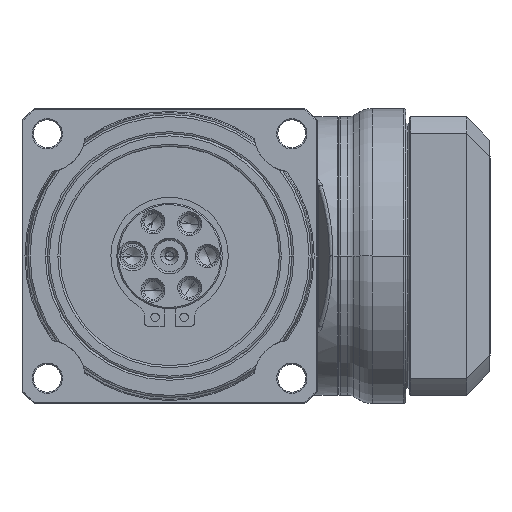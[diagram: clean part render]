
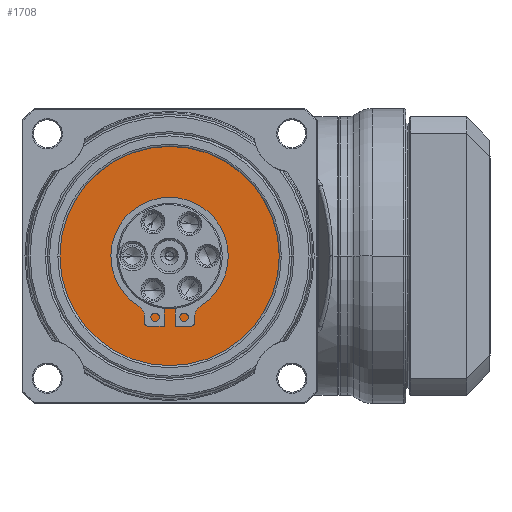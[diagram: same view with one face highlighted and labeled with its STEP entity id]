
A CAD part, left-side view. The second image highlights one B-rep face of the part: STEP entity #1708.
In plain terms, the highlighted planar face has unit normal (-1, 0, 0).
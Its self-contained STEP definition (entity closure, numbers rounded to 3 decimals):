
#751=CARTESIAN_POINT('',(-32.,0.,0.));
#752=DIRECTION('',(1.,0.,0.));
#753=DIRECTION('',(0.,1.,0.));
#754=AXIS2_PLACEMENT_3D('',#751,#752,#753);
#760=CARTESIAN_POINT('',(-32.,0.,0.));
#761=DIRECTION('',(-1.,0.,0.));
#762=DIRECTION('',(0.,1.,0.));
#763=AXIS2_PLACEMENT_3D('',#760,#761,#762);
#779=CARTESIAN_POINT('',(-32.,0.,0.));
#780=DIRECTION('',(-1.,0.,0.));
#781=DIRECTION('',(0.,1.,0.));
#782=AXIS2_PLACEMENT_3D('',#779,#780,#781);
#784=CARTESIAN_POINT('',(-32.,0.,0.));
#785=DIRECTION('',(1.,0.,0.));
#786=DIRECTION('',(0.,1.,0.));
#787=AXIS2_PLACEMENT_3D('',#784,#785,#786);
#1172=CARTESIAN_POINT('',(-32.,26.,0.));
#1174=VERTEX_POINT('',#1172);
#1176=CARTESIAN_POINT('',(-32.,-26.,0.));
#1178=VERTEX_POINT('',#1176);
#1179=CARTESIAN_POINT('',(-32.,12.5,0.));
#1180=CARTESIAN_POINT('',(-32.,-12.5,0.));
#1181=VERTEX_POINT('',#1179);
#1182=VERTEX_POINT('',#1180);
#1693=CARTESIAN_POINT('',(-32.,0.,0.));
#1694=DIRECTION('',(1.,0.,0.));
#1695=DIRECTION('',(0.,-1.,0.));
#1696=AXIS2_PLACEMENT_3D('',#1693,#1694,#1695);
#1697=PLANE('',#1696);
#1699=ORIENTED_EDGE('',*,*,#1698,.F.);
#1701=ORIENTED_EDGE('',*,*,#1700,.T.);
#1702=EDGE_LOOP('',(#1699,#1701));
#1703=FACE_OUTER_BOUND('',#1702,.F.);
#1704=ORIENTED_EDGE('',*,*,#1660,.F.);
#1705=ORIENTED_EDGE('',*,*,#1675,.T.);
#1706=EDGE_LOOP('',(#1704,#1705));
#1707=FACE_BOUND('',#1706,.F.);
#1708=ADVANCED_FACE('',(#1703,#1707),#1697,.F.);
#755=CIRCLE('',#754,12.5);
#764=CIRCLE('',#763,12.5);
#783=CIRCLE('',#782,26.);
#788=CIRCLE('',#787,26.);
#1660=EDGE_CURVE('',#1181,#1182,#755,.T.);
#1675=EDGE_CURVE('',#1181,#1182,#764,.T.);
#1698=EDGE_CURVE('',#1174,#1178,#783,.T.);
#1700=EDGE_CURVE('',#1174,#1178,#788,.T.);
